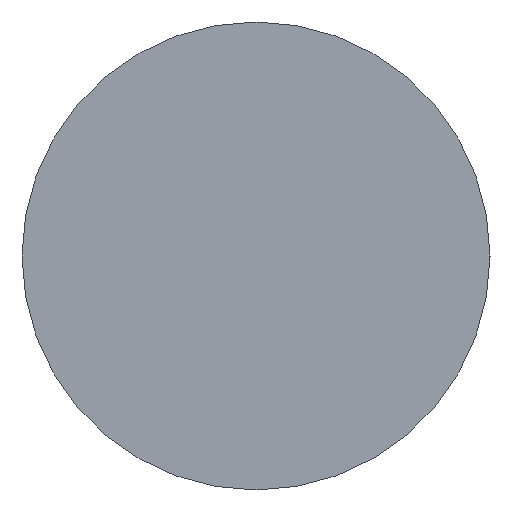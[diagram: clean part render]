
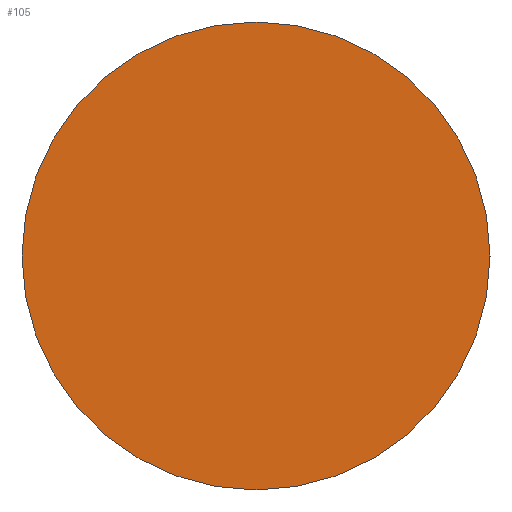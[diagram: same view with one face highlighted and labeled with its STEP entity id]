
A CAD part, left-side view. The second image highlights one B-rep face of the part: STEP entity #105.
In plain terms, the highlighted planar face has unit normal (-1, 0, 0).
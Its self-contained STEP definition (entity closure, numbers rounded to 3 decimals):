
#22 = VERTEX_POINT('',#23);
#23 = CARTESIAN_POINT('',(24.5,1.2,-291.));
#32 = CYLINDRICAL_SURFACE('',#33,3.);
#33 = AXIS2_PLACEMENT_3D('',#34,#35,#36);
#34 = CARTESIAN_POINT('',(24.5,4.2,-291.));
#35 = DIRECTION('',(-1.,-0.,-0.));
#36 = DIRECTION('',(0.,-1.,0.));
#79 = EDGE_CURVE('',#22,#22,#80,.T.);
#80 = SURFACE_CURVE('',#81,(#86,#93),.PCURVE_S1.);
#81 = CIRCLE('',#82,3.);
#82 = AXIS2_PLACEMENT_3D('',#83,#84,#85);
#83 = CARTESIAN_POINT('',(24.5,4.2,-291.));
#84 = DIRECTION('',(1.,0.,0.));
#85 = DIRECTION('',(0.,-1.,0.));
#86 = PCURVE('',#32,#87);
#87 = DEFINITIONAL_REPRESENTATION('',(#88),#92);
#88 = LINE('',#89,#90);
#89 = CARTESIAN_POINT('',(-0.,0.));
#90 = VECTOR('',#91,1.);
#91 = DIRECTION('',(-1.,0.));
#92 = ( GEOMETRIC_REPRESENTATION_CONTEXT(2) 
PARAMETRIC_REPRESENTATION_CONTEXT() REPRESENTATION_CONTEXT('2D SPACE',''
  ) );
#93 = PCURVE('',#94,#99);
#94 = PLANE('',#95);
#95 = AXIS2_PLACEMENT_3D('',#96,#97,#98);
#96 = CARTESIAN_POINT('',(24.5,4.2,-291.));
#97 = DIRECTION('',(1.,0.,0.));
#98 = DIRECTION('',(-0.,0.,1.));
#99 = DEFINITIONAL_REPRESENTATION('',(#100),#104);
#100 = CIRCLE('',#101,3.);
#101 = AXIS2_PLACEMENT_2D('',#102,#103);
#102 = CARTESIAN_POINT('',(0.,0.));
#103 = DIRECTION('',(0.,1.));
#104 = ( GEOMETRIC_REPRESENTATION_CONTEXT(2) 
PARAMETRIC_REPRESENTATION_CONTEXT() REPRESENTATION_CONTEXT('2D SPACE',''
  ) );
#105 = ADVANCED_FACE('',(#106),#94,.F.);
#106 = FACE_BOUND('',#107,.F.);
#107 = EDGE_LOOP('',(#108));
#108 = ORIENTED_EDGE('',*,*,#79,.T.);
